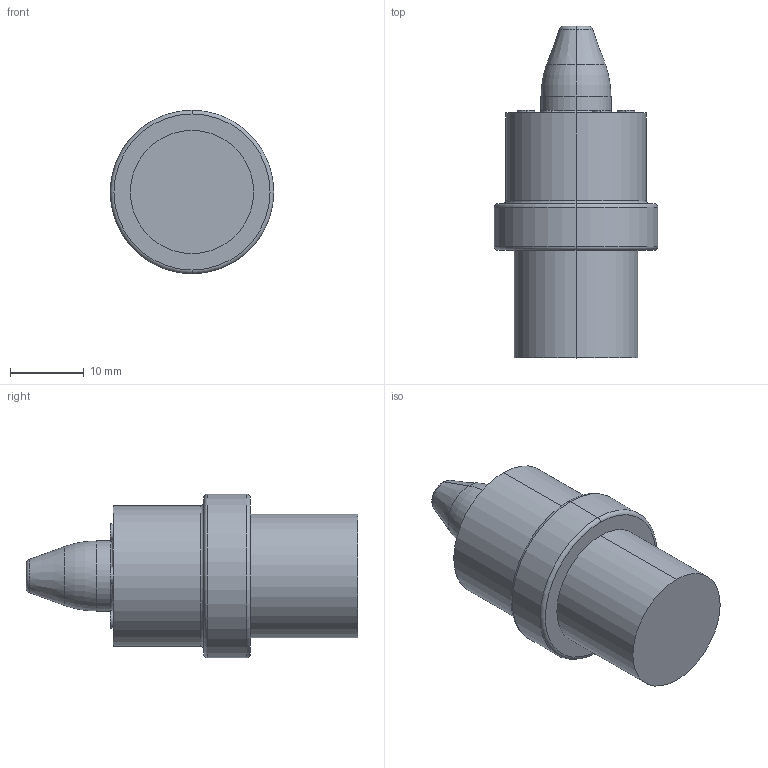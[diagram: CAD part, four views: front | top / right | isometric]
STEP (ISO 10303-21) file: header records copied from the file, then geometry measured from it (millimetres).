
FILE_DESCRIPTION (( 'STEP AP214' ), '1' );
FILE_NAME ('PA-.375-.075-P-W.stp', '2020-05-01T17:34:52', ( '' ), ( '' ), 'SwSTEP 2.0', 'SolidWorks 2017', '' );
FILE_SCHEMA (( 'AUTOMOTIVE_DESIGN' ));
Length unit declared in the file: inch
Products named in the file (1): PA-.375-.075-P-W
Bounding box: 22.23 x 45.09 x 22.23 mm (x, y, z)
Volume: 9801.4 mm3; surface area: 2937.9 mm2
Topology: 1 solids, 1 shells, 45 faces, 88 edges, 54 vertices
Faces by surface type: cylinder 20, torus 12, plane 11, cone 2
Entity records: 1216 total; most frequent: DIRECTION 246, CARTESIAN_POINT 188, ORIENTED_EDGE 176, AXIS2_PLACEMENT_3D 112, EDGE_CURVE 88, CIRCLE 66, EDGE_LOOP 54, VERTEX_POINT 54
